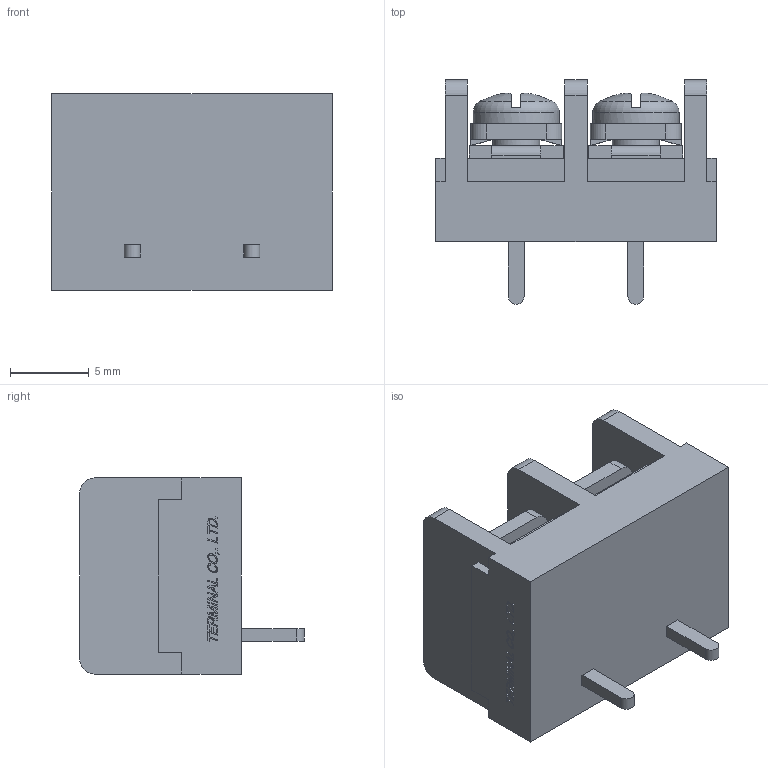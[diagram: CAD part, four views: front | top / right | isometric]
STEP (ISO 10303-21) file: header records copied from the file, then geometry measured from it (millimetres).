
FILE_DESCRIPTION(/* description */ ('Alibre Inc.'),/* implementation_level */ '2;1');
FILE_NAME(/* name */ 'export0',/* time_stamp */ '2015-10-26T17:21:28+09:00',/* author */ (''),/* organization */ (''),/* preprocessor_version */ 'ST-DEVELOPER v14',/* originating_system */ 'Alibre',/* authorisation */ '');
FILE_SCHEMA (('CONFIG_CONTROL_DESIGN'));
Length unit declared in the file: centimetre
Products named in the file (1): ID_1
Bounding box: 17.86 x 14.3 x 12.5 mm (x, y, z)
Volume: 1628.2 mm3; surface area: 1594.2 mm2
Topology: 1 solids, 1 shells, 582 faces, 1578 edges, 1046 vertices
Faces by surface type: plane 436, bspline 104, cylinder 26, cone 8, torus 4, sphere 4
Full cylindrical faces by diameter (mm): 3 x2, 5.5 x2
Entity records: 17655 total; most frequent: CARTESIAN_POINT 4253, ORIENTED_EDGE 3124, DIRECTION 1904, EDGE_CURVE 1562, VECTOR 1180, LINE 1180, VERTEX_POINT 1038, EDGE_LOOP 638
